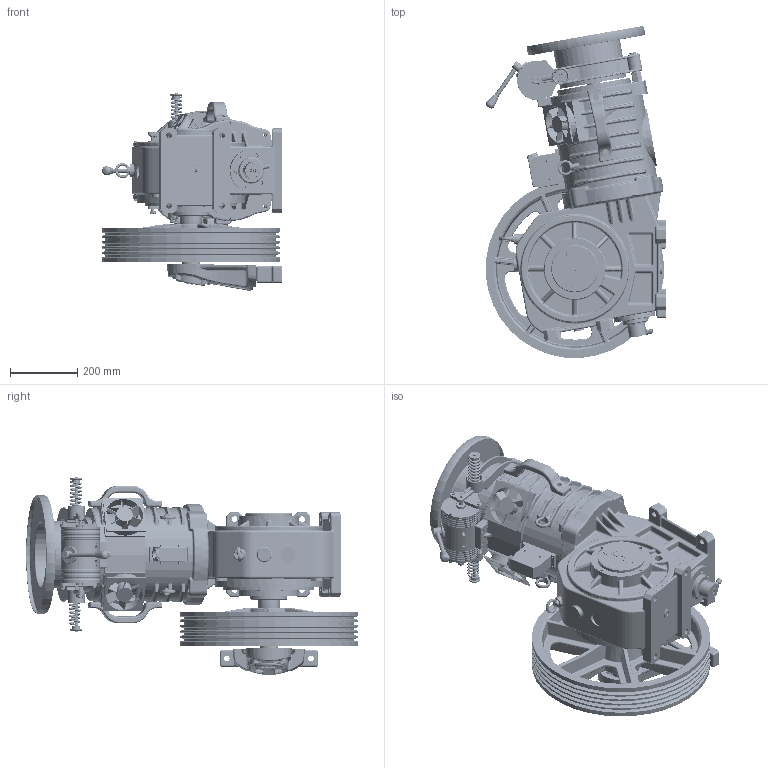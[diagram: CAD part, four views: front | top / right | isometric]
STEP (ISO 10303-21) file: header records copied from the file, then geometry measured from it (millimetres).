
FILE_DESCRIPTION (( 'STEP AP214' ), '1' );
FILE_NAME ('STL7510021.STEP', '2026-01-21T08:56:10', ( '' ), ( '' ), 'SwSTEP 2.0', 'SolidWorks 2023', '' );
FILE_SCHEMA (( 'AUTOMOTIVE_DESIGN' ));
Length unit declared in the file: millimetre
Products named in the file (1): STL7510021
Bounding box: 535.95 x 985.44 x 587.91 mm (x, y, z)
Volume: 59188535 mm3; surface area: 4230205.4 mm2
Topology: 38 solids, 63 shells, 6348 faces, 15110 edges, 8848 vertices
Faces by surface type: cylinder 2258, plane 1428, bspline 1068, torus 714, cone 493, sphere 387
Entity records: 252086 total; most frequent: CARTESIAN_POINT 112659, ORIENTED_EDGE 29676, DIRECTION 28979, EDGE_CURVE 14838, AXIS2_PLACEMENT_3D 12017, VERTEX_POINT 8810, EDGE_LOOP 6820, CIRCLE 6736
